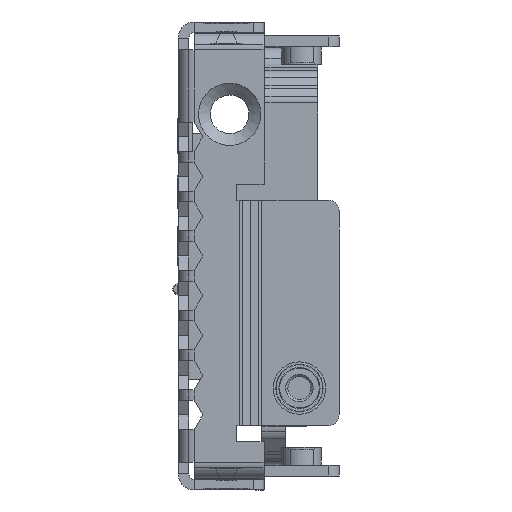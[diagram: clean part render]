
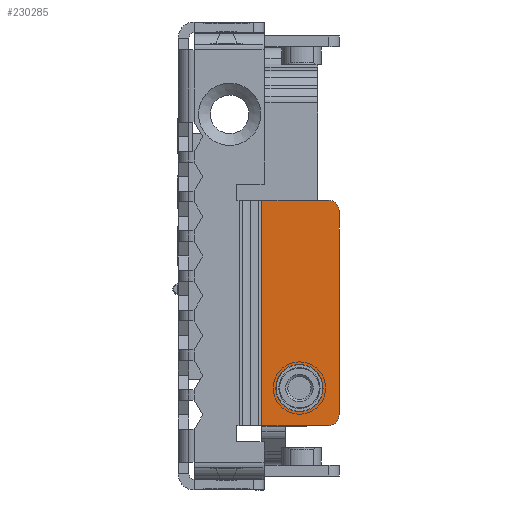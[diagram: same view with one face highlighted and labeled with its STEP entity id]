
A CAD part, left-side view. The second image highlights one B-rep face of the part: STEP entity #230285.
In plain terms, the highlighted planar face has unit normal (-1, 0, 0).
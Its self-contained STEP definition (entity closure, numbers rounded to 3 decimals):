
#230177=CARTESIAN_POINT('',(-212.7,27.,13.));
#230178=VERTEX_POINT('',#230177);
#230185=CARTESIAN_POINT('',(-212.7,26.,14.));
#230186=VERTEX_POINT('',#230185);
#230187=CARTESIAN_POINT('',(-212.7,26.,13.));
#230188=DIRECTION('',(-1.0,0.,0.));
#230189=DIRECTION('',(0.,0.707,0.707));
#230190=AXIS2_PLACEMENT_3D('',#230187,#230188,#230189);
#230191=CIRCLE('',#230190,1.0);
#230192=EDGE_CURVE('',#230186,#230178,#230191,.T.);
#230217=CARTESIAN_POINT('',(-212.7,27.,6.8));
#230218=VERTEX_POINT('',#230217);
#230225=CARTESIAN_POINT('',(-212.7,27.,13.));
#230226=DIRECTION('',(0.0,0.0,-1.0));
#230227=VECTOR('',#230226,6.2);
#230228=LINE('',#230225,#230227);
#230229=EDGE_CURVE('',#230178,#230218,#230228,.T.);
#230234=CARTESIAN_POINT('',(-212.7,16.5,10.4));
#230235=DIRECTION('',(1.0,0.0,0.0));
#230236=DIRECTION('',(0.0,0.0,-1.0));
#230237=AXIS2_PLACEMENT_3D('',#230234,#230235,#230236);
#230238=PLANE('',#230237);
#230239=ORIENTED_EDGE('',*,*,#230192,.T.);
#230240=ORIENTED_EDGE('',*,*,#230229,.T.);
#230241=CARTESIAN_POINT('',(-212.7,6.,6.8));
#230242=VERTEX_POINT('',#230241);
#230243=CARTESIAN_POINT('',(-212.7,27.,6.8));
#230244=DIRECTION('',(0.0,-1.0,0.0));
#230245=VECTOR('',#230244,21.);
#230246=LINE('',#230243,#230245);
#230247=EDGE_CURVE('',#230218,#230242,#230246,.T.);
#230248=ORIENTED_EDGE('',*,*,#230247,.T.);
#230249=CARTESIAN_POINT('',(-212.7,6.,13.));
#230250=VERTEX_POINT('',#230249);
#230251=CARTESIAN_POINT('',(-212.7,6.,6.8));
#230252=DIRECTION('',(0.0,0.0,1.0));
#230253=VECTOR('',#230252,6.2);
#230254=LINE('',#230251,#230253);
#230255=EDGE_CURVE('',#230242,#230250,#230254,.T.);
#230256=ORIENTED_EDGE('',*,*,#230255,.T.);
#230257=CARTESIAN_POINT('',(-212.7,7.,14.));
#230258=VERTEX_POINT('',#230257);
#230259=CARTESIAN_POINT('',(-212.7,7.,13.));
#230260=DIRECTION('',(-1.0,0.,0.));
#230261=DIRECTION('',(0.,-0.707,0.707));
#230262=AXIS2_PLACEMENT_3D('',#230259,#230260,#230261);
#230263=CIRCLE('',#230262,1.0);
#230264=EDGE_CURVE('',#230250,#230258,#230263,.T.);
#230265=ORIENTED_EDGE('',*,*,#230264,.T.);
#230266=CARTESIAN_POINT('',(-212.7,7.,14.));
#230267=DIRECTION('',(0.0,1.0,0.0));
#230268=VECTOR('',#230267,19.);
#230269=LINE('',#230266,#230268);
#230270=EDGE_CURVE('',#230258,#230186,#230269,.T.);
#230271=ORIENTED_EDGE('',*,*,#230270,.T.);
#230272=EDGE_LOOP('',(#230239,#230240,#230248,#230256,#230265,#230271));
#230273=FACE_OUTER_BOUND('',#230272,.T.);
#230274=CARTESIAN_POINT('',(-212.7,9.5,8.1));
#230275=VERTEX_POINT('',#230274);
#230276=CARTESIAN_POINT('',(-212.7,9.5,10.3));
#230277=DIRECTION('',(-1.0,0.0,0.0));
#230278=DIRECTION('',(0.0,0.0,-1.0));
#230279=AXIS2_PLACEMENT_3D('',#230276,#230277,#230278);
#230280=CIRCLE('',#230279,2.2);
#230281=EDGE_CURVE('',#230275,#230275,#230280,.T.);
#230282=ORIENTED_EDGE('',*,*,#230281,.F.);
#230283=EDGE_LOOP('',(#230282));
#230284=FACE_BOUND('',#230283,.T.);
#230285=ADVANCED_FACE('',(#230273,#230284),#230238,.F.);
